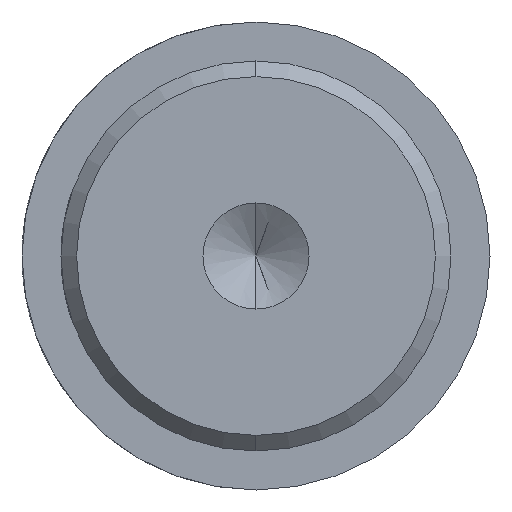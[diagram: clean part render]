
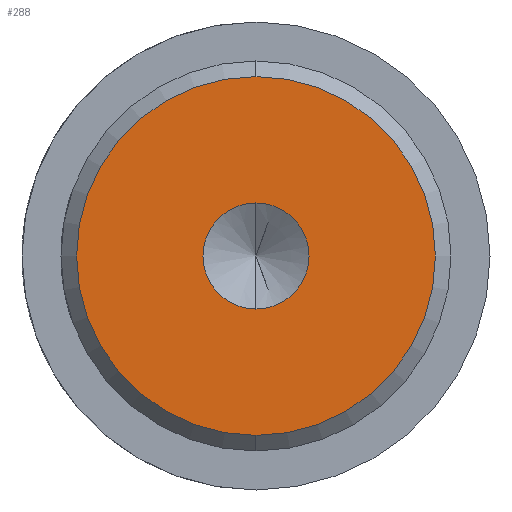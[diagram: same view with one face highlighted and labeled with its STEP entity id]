
A CAD part, left-side view. The second image highlights one B-rep face of the part: STEP entity #288.
In plain terms, the highlighted planar face has unit normal (-1, 0, 0).
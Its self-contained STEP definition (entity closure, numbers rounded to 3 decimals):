
#179 = VERTEX_POINT ( 'NONE', #550 ) ;
#183 = EDGE_CURVE ( 'NONE', #185, #179, #500, .T. ) ;
#185 = VERTEX_POINT ( 'NONE', #586 ) ;
#285 = EDGE_CURVE ( 'NONE', #328, #331, #818, .T. ) ;
#288 = ADVANCED_FACE ( 'NONE', ( #801, #800 ), #813, .T. ) ;
#289 = EDGE_LOOP ( 'NONE', ( #301, #1183 ) ) ;
#301 = ORIENTED_EDGE ( 'NONE', *, *, #285, .F. ) ;
#328 = VERTEX_POINT ( 'NONE', #916 ) ;
#331 = VERTEX_POINT ( 'NONE', #902 ) ;
#333 = EDGE_CURVE ( 'NONE', #331, #328, #895, .T. ) ;
#500 = CIRCLE ( 'NONE', #529, 11.5 ) ;
#529 = AXIS2_PLACEMENT_3D ( 'NONE', #582, #581, #580 ) ;
#550 = CARTESIAN_POINT ( 'NONE',  ( 0., 0., -11.5 ) ) ;
#580 = DIRECTION ( 'NONE',  ( 0., 0., 1. ) ) ;
#581 = DIRECTION ( 'NONE',  ( -1., 0., 0. ) ) ;
#582 = CARTESIAN_POINT ( 'NONE',  ( 0., 0., 0. ) ) ;
#586 = CARTESIAN_POINT ( 'NONE',  ( 0., 0., 11.5 ) ) ;
#766 = AXIS2_PLACEMENT_3D ( 'NONE', #799, #798, #797 ) ;
#797 = DIRECTION ( 'NONE',  ( 0., 0., 1. ) ) ;
#798 = DIRECTION ( 'NONE',  ( -1., 0., 0. ) ) ;
#799 = CARTESIAN_POINT ( 'NONE',  ( 0., 0., 0. ) ) ;
#800 = FACE_OUTER_BOUND ( 'NONE', #1169, .T. ) ;
#801 = FACE_BOUND ( 'NONE', #289, .T. ) ;
#802 = AXIS2_PLACEMENT_3D ( 'NONE', #816, #849, #848 ) ;
#813 = PLANE ( 'NONE',  #802 ) ;
#816 = CARTESIAN_POINT ( 'NONE',  ( 0., 0., 0. ) ) ;
#818 = CIRCLE ( 'NONE', #766, 3.4 ) ;
#848 = DIRECTION ( 'NONE',  ( 0., 0., 1. ) ) ;
#849 = DIRECTION ( 'NONE',  ( -1., 0., 0. ) ) ;
#892 = DIRECTION ( 'NONE',  ( 0., 0., 1. ) ) ;
#893 = DIRECTION ( 'NONE',  ( -1., 0., 0. ) ) ;
#894 = AXIS2_PLACEMENT_3D ( 'NONE', #901, #893, #892 ) ;
#895 = CIRCLE ( 'NONE', #894, 3.4 ) ;
#901 = CARTESIAN_POINT ( 'NONE',  ( 0., 0., 0. ) ) ;
#902 = CARTESIAN_POINT ( 'NONE',  ( 0., 0., -3.4 ) ) ;
#916 = CARTESIAN_POINT ( 'NONE',  ( 0., 0., 3.4 ) ) ;
#993 = CARTESIAN_POINT ( 'NONE',  ( 0., 0., 0. ) ) ;
#1011 = DIRECTION ( 'NONE',  ( 0., 0., 1. ) ) ;
#1012 = DIRECTION ( 'NONE',  ( -1., 0., 0. ) ) ;
#1024 = AXIS2_PLACEMENT_3D ( 'NONE', #993, #1012, #1011 ) ;
#1029 = CIRCLE ( 'NONE', #1024, 11.5 ) ;
#1148 = ORIENTED_EDGE ( 'NONE', *, *, #1149, .T. ) ;
#1149 = EDGE_CURVE ( 'NONE', #179, #185, #1029, .T. ) ;
#1156 = ORIENTED_EDGE ( 'NONE', *, *, #183, .T. ) ;
#1169 = EDGE_LOOP ( 'NONE', ( #1148, #1156 ) ) ;
#1183 = ORIENTED_EDGE ( 'NONE', *, *, #333, .F. ) ;
